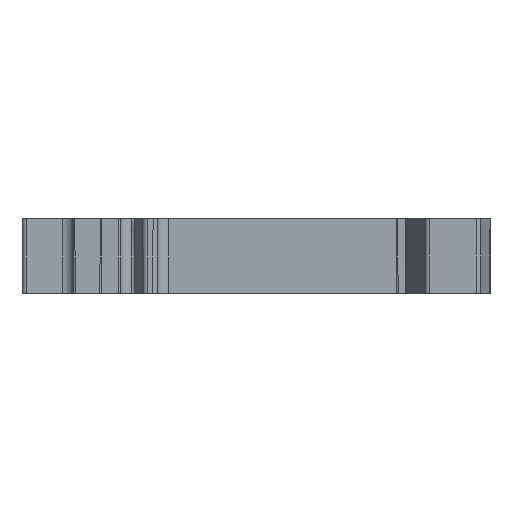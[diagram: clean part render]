
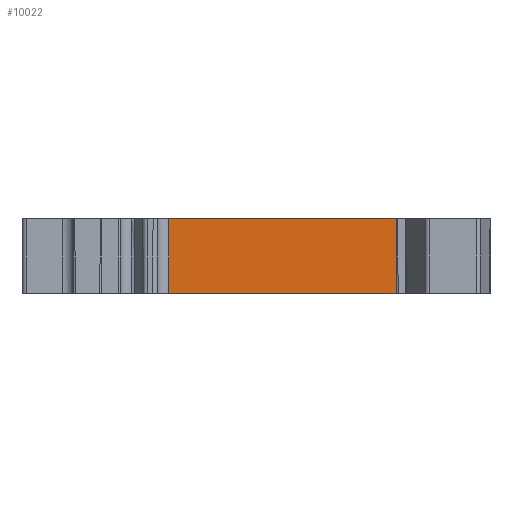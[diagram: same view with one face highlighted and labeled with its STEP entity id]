
A CAD part, front view. The second image highlights one B-rep face of the part: STEP entity #10022.
In plain terms, the highlighted planar face has unit normal (0, -1, -0.004).
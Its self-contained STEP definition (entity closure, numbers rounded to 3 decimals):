
#553=LINE('',#13597,#1278);
#747=LINE('',#14302,#1472);
#748=LINE('',#14304,#1473);
#749=LINE('',#14306,#1474);
#1278=VECTOR('',#11325,1000.);
#1472=VECTOR('',#11719,1000.);
#1473=VECTOR('',#11720,1000.);
#1474=VECTOR('',#11721,1000.);
#2431=ORIENTED_EDGE('',*,*,#4197,.T.);
#2432=ORIENTED_EDGE('',*,*,#4479,.T.);
#2433=ORIENTED_EDGE('',*,*,#4480,.F.);
#2434=ORIENTED_EDGE('',*,*,#4481,.T.);
#4197=EDGE_CURVE('',#5260,#5259,#553,.T.);
#4479=EDGE_CURVE('',#5259,#5483,#747,.F.);
#4480=EDGE_CURVE('',#5484,#5483,#748,.T.);
#4481=EDGE_CURVE('',#5484,#5260,#749,.F.);
#5259=VERTEX_POINT('',#13596);
#5260=VERTEX_POINT('',#13598);
#5483=VERTEX_POINT('',#14303);
#5484=VERTEX_POINT('',#14305);
#6043=EDGE_LOOP('',(#2431,#2432,#2433,#2434));
#6499=FACE_BOUND('',#6043,.T.);
#6925=PLANE('',#10518);
#10022=ADVANCED_FACE('',(#6499),#6925,.T.);
#10518=AXIS2_PLACEMENT_3D('',#14301,#11717,#11718);
#11325=DIRECTION('',(-1.,0.,0.));
#11717=DIRECTION('',(0.,-1.,-0.003));
#11718=DIRECTION('',(0.,-0.003,1.));
#11719=DIRECTION('',(0.003,-0.003,1.));
#11720=DIRECTION('',(-1.,0.,0.));
#11721=DIRECTION('',(0.003,0.003,-1.));
#13596=CARTESIAN_POINT('',(-73.403,130.964,0.));
#13597=CARTESIAN_POINT('',(-39.103,130.964,0.));
#13598=CARTESIAN_POINT('',(-47.803,130.964,0.));
#14301=CARTESIAN_POINT('',(-64.103,130.964,0.));
#14302=CARTESIAN_POINT('',(-73.402,130.964,0.032));
#14303=CARTESIAN_POINT('',(-73.43,130.992,-8.));
#14304=CARTESIAN_POINT('',(-64.103,130.992,-8.));
#14305=CARTESIAN_POINT('',(-47.775,130.992,-8.));
#14306=CARTESIAN_POINT('',(-47.803,130.964,-0.004));
